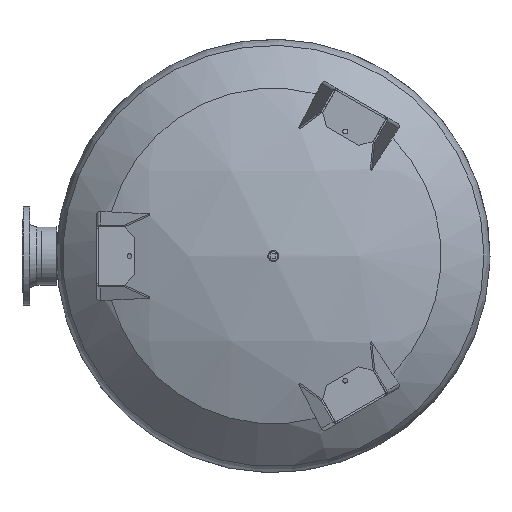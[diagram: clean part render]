
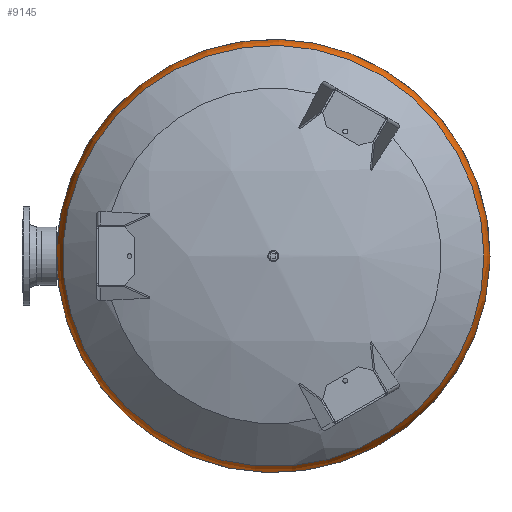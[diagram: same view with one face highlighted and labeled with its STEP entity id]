
A CAD part, front view. The second image highlights one B-rep face of the part: STEP entity #9145.
In plain terms, the highlighted toroidal (fillet/blend) face has major radius 486 mm and minor radius 139 mm.
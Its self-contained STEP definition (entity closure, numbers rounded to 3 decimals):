
#3180=CARTESIAN_POINT('',(1326.96,-80.237,0.));
#3181=VERTEX_POINT('',#3180);
#3182=CARTESIAN_POINT('',(719.298,-80.237,0.));
#3183=DIRECTION('',(0.0,-1.0,0.0));
#3184=DIRECTION('',(1.0,0.0,0.0));
#3185=AXIS2_PLACEMENT_3D('',#3182,#3183,#3184);
#3186=CIRCLE('',#3185,607.661);
#3187=EDGE_CURVE('',#3181,#3181,#3186,.T.);
#9126=CARTESIAN_POINT('',(719.298,-13.01,0.));
#9127=DIRECTION('',(0.,-1.0,0.));
#9128=DIRECTION('',(0.0,0.0,-1.0));
#9129=AXIS2_PLACEMENT_3D('',#9126,#9127,#9128);
#9130=TOROIDAL_SURFACE('',#9129,486.,139.);
#9131=ORIENTED_EDGE('',*,*,#3187,.F.);
#9132=EDGE_LOOP('',(#9131));
#9133=FACE_OUTER_BOUND('',#9132,.T.);
#9134=CARTESIAN_POINT('',(1344.298,-13.01,0.));
#9135=VERTEX_POINT('',#9134);
#9136=CARTESIAN_POINT('',(719.298,-13.01,0.));
#9137=DIRECTION('',(0.0,-1.0,0.0));
#9138=DIRECTION('',(1.0,0.0,0.0));
#9139=AXIS2_PLACEMENT_3D('',#9136,#9137,#9138);
#9140=CIRCLE('',#9139,625.0);
#9141=EDGE_CURVE('',#9135,#9135,#9140,.T.);
#9142=ORIENTED_EDGE('',*,*,#9141,.T.);
#9143=EDGE_LOOP('',(#9142));
#9144=FACE_BOUND('',#9143,.T.);
#9145=ADVANCED_FACE('',(#9133,#9144),#9130,.T.);
